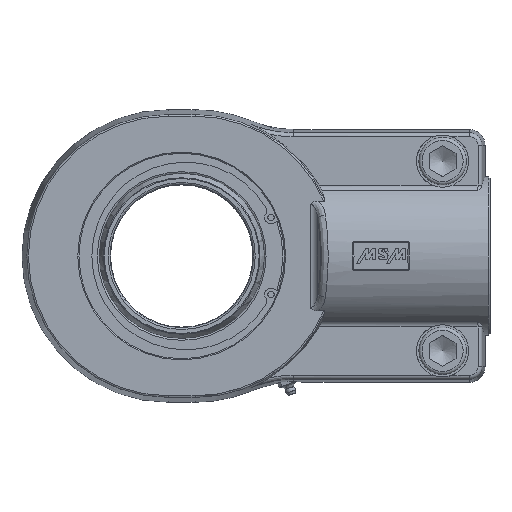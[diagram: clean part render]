
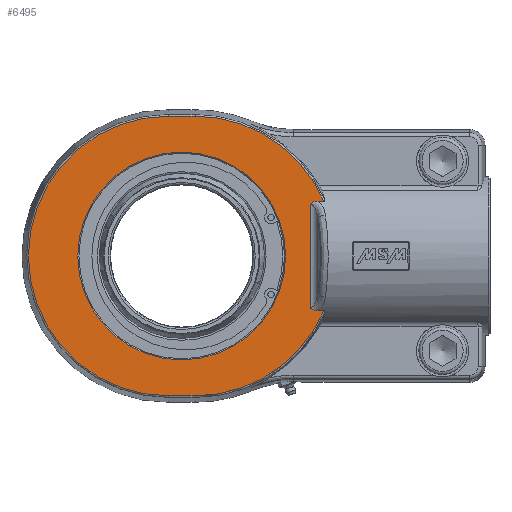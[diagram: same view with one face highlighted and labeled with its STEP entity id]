
A CAD part, left-side view. The second image highlights one B-rep face of the part: STEP entity #6495.
In plain terms, the highlighted planar face has unit normal (-1, 0, 0) as drawn and (0, 0, 1) by its records, which use the part's own axes.
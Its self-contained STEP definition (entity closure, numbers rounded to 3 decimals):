
#2468=CARTESIAN_POINT('',(34.699,-89.842,36.0));
#2469=VERTEX_POINT('',#2468);
#2485=CARTESIAN_POINT('',(34.699,-86.266,36.));
#2486=VERTEX_POINT('',#2485);
#2487=CARTESIAN_POINT('',(34.699,-86.266,36.));
#2488=DIRECTION('',(0.,-1.0,0.));
#2489=VECTOR('',#2488,3.576);
#2490=LINE('',#2487,#2489);
#2491=EDGE_CURVE('',#2486,#2469,#2490,.T.);
#2518=CARTESIAN_POINT('',(-34.699,-86.266,36.));
#2519=VERTEX_POINT('',#2518);
#2533=CARTESIAN_POINT('',(-34.699,-89.842,36.0));
#2534=VERTEX_POINT('',#2533);
#2535=CARTESIAN_POINT('',(-34.699,-89.842,36.0));
#2536=DIRECTION('',(0.,1.0,0.));
#2537=VECTOR('',#2536,3.576);
#2538=LINE('',#2535,#2537);
#2539=EDGE_CURVE('',#2534,#2519,#2538,.T.);
#2917=CARTESIAN_POINT('',(0.0,65.7,36.));
#2918=VERTEX_POINT('',#2917);
#2919=CARTESIAN_POINT('',(0.0,0.0,36.0));
#2920=DIRECTION('',(0.0,0.0,-1.0));
#2921=DIRECTION('',(0.0,1.0,0.0));
#2922=AXIS2_PLACEMENT_3D('',#2919,#2920,#2921);
#2923=CIRCLE('',#2922,65.7);
#2924=EDGE_CURVE('',#2918,#2918,#2923,.T.);
#6308=CARTESIAN_POINT('',(-88.434,-8.5,36.0));
#6309=VERTEX_POINT('',#6308);
#6327=CARTESIAN_POINT('',(0.0,-8.5,36.0));
#6328=DIRECTION('',(0.0,0.0,-1.0));
#6329=DIRECTION('',(-0.833,-0.553,0.0));
#6330=AXIS2_PLACEMENT_3D('',#6327,#6328,#6329);
#6331=CIRCLE('',#6330,88.434);
#6332=EDGE_CURVE('',#2534,#6309,#6331,.T.);
#6342=CARTESIAN_POINT('',(-88.434,8.5,36.0));
#6343=VERTEX_POINT('',#6342);
#6358=CARTESIAN_POINT('',(-88.434,-8.5,36.0));
#6359=DIRECTION('',(0.0,1.0,0.0));
#6360=VECTOR('',#6359,17.);
#6361=LINE('',#6358,#6360);
#6362=EDGE_CURVE('',#6309,#6343,#6361,.T.);
#6372=CARTESIAN_POINT('',(88.434,8.5,36.0));
#6373=VERTEX_POINT('',#6372);
#6383=CARTESIAN_POINT('',(0.,8.5,36.0));
#6384=DIRECTION('',(0.0,0.0,-1.0));
#6385=DIRECTION('',(0.0,1.0,0.0));
#6386=AXIS2_PLACEMENT_3D('',#6383,#6384,#6385);
#6387=CIRCLE('',#6386,88.434);
#6388=EDGE_CURVE('',#6343,#6373,#6387,.T.);
#6398=CARTESIAN_POINT('',(88.434,-8.5,36.0));
#6399=VERTEX_POINT('',#6398);
#6409=CARTESIAN_POINT('',(88.434,8.5,36.0));
#6410=DIRECTION('',(0.0,-1.0,0.0));
#6411=VECTOR('',#6410,17.);
#6412=LINE('',#6409,#6411);
#6413=EDGE_CURVE('',#6373,#6399,#6412,.T.);
#6432=CARTESIAN_POINT('',(0.0,-8.5,36.0));
#6433=DIRECTION('',(0.0,0.0,-1.0));
#6434=DIRECTION('',(0.833,-0.553,0.0));
#6435=AXIS2_PLACEMENT_3D('',#6432,#6433,#6434);
#6436=CIRCLE('',#6435,88.434);
#6437=EDGE_CURVE('',#6399,#2469,#6436,.T.);
#6442=CARTESIAN_POINT('',(0.,0.,36.0));
#6443=DIRECTION('',(0.0,0.0,1.0));
#6444=DIRECTION('',(1.0,0.0,0.0));
#6445=AXIS2_PLACEMENT_3D('',#6442,#6443,#6444);
#6446=PLANE('',#6445);
#6447=ORIENTED_EDGE('',*,*,#6437,.F.);
#6448=ORIENTED_EDGE('',*,*,#6413,.F.);
#6449=ORIENTED_EDGE('',*,*,#6388,.F.);
#6450=ORIENTED_EDGE('',*,*,#6362,.F.);
#6451=ORIENTED_EDGE('',*,*,#6332,.F.);
#6452=ORIENTED_EDGE('',*,*,#2539,.T.);
#6453=CARTESIAN_POINT('',(-32.619,-81.163,36.0));
#6454=VERTEX_POINT('',#6453);
#6455=CARTESIAN_POINT('',(-34.699,-86.266,36.0));
#6456=CARTESIAN_POINT('',(-34.699,-86.032,36.0));
#6457=CARTESIAN_POINT('',(-34.688,-85.799,36.));
#6458=CARTESIAN_POINT('',(-34.588,-84.714,36.));
#6459=CARTESIAN_POINT('',(-34.366,-83.882,36.));
#6460=CARTESIAN_POINT('',(-33.729,-82.546,36.));
#6461=CARTESIAN_POINT('',(-33.316,-81.863,36.));
#6462=CARTESIAN_POINT('',(-32.626,-81.17,36.));
#6463=CARTESIAN_POINT('',(-32.622,-81.167,36.));
#6464=CARTESIAN_POINT('',(-32.619,-81.163,36.));
#6465=B_SPLINE_CURVE_WITH_KNOTS('',3,(#6455,#6456,#6457,#6458,#6459,#6460,#6461,#6462,#6463,#6464),.UNSPECIFIED.,.F.,.U.,(4,2,2,2,4),(0.0,0.07,0.327,0.514,0.515),.UNSPECIFIED.);
#6466=EDGE_CURVE('',#6454,#2519,#6465,.F.);
#6467=ORIENTED_EDGE('',*,*,#6466,.F.);
#6468=CARTESIAN_POINT('',(32.619,-81.163,36.0));
#6469=VERTEX_POINT('',#6468);
#6470=CARTESIAN_POINT('',(32.619,-81.163,36.0));
#6471=DIRECTION('',(-1.0,0.0,0.0));
#6472=VECTOR('',#6471,65.238);
#6473=LINE('',#6470,#6472);
#6474=EDGE_CURVE('',#6469,#6454,#6473,.T.);
#6475=ORIENTED_EDGE('',*,*,#6474,.F.);
#6476=CARTESIAN_POINT('',(32.619,-81.163,36.));
#6477=CARTESIAN_POINT('',(32.622,-81.167,36.));
#6478=CARTESIAN_POINT('',(32.626,-81.17,36.));
#6479=CARTESIAN_POINT('',(32.972,-81.518,36.));
#6480=CARTESIAN_POINT('',(33.277,-81.891,36.));
#6481=CARTESIAN_POINT('',(33.805,-82.7,36.));
#6482=CARTESIAN_POINT('',(34.025,-83.128,36.));
#6483=CARTESIAN_POINT('',(34.534,-84.433,36.));
#6484=CARTESIAN_POINT('',(34.699,-85.346,36.0));
#6485=CARTESIAN_POINT('',(34.699,-86.266,36.0));
#6486=B_SPLINE_CURVE_WITH_KNOTS('',3,(#6476,#6477,#6478,#6479,#6480,#6481,#6482,#6483,#6484,#6485),.UNSPECIFIED.,.F.,.U.,(4,2,2,2,4),(-0.001,0.0,0.146,0.291,0.567),.UNSPECIFIED.);
#6487=EDGE_CURVE('',#2486,#6469,#6486,.F.);
#6488=ORIENTED_EDGE('',*,*,#6487,.F.);
#6489=ORIENTED_EDGE('',*,*,#2491,.T.);
#6490=EDGE_LOOP('',(#6447,#6448,#6449,#6450,#6451,#6452,#6467,#6475,#6488,#6489));
#6491=FACE_OUTER_BOUND('',#6490,.T.);
#6492=ORIENTED_EDGE('',*,*,#2924,.T.);
#6493=EDGE_LOOP('',(#6492));
#6494=FACE_BOUND('',#6493,.T.);
#6495=ADVANCED_FACE('',(#6491,#6494),#6446,.T.);
